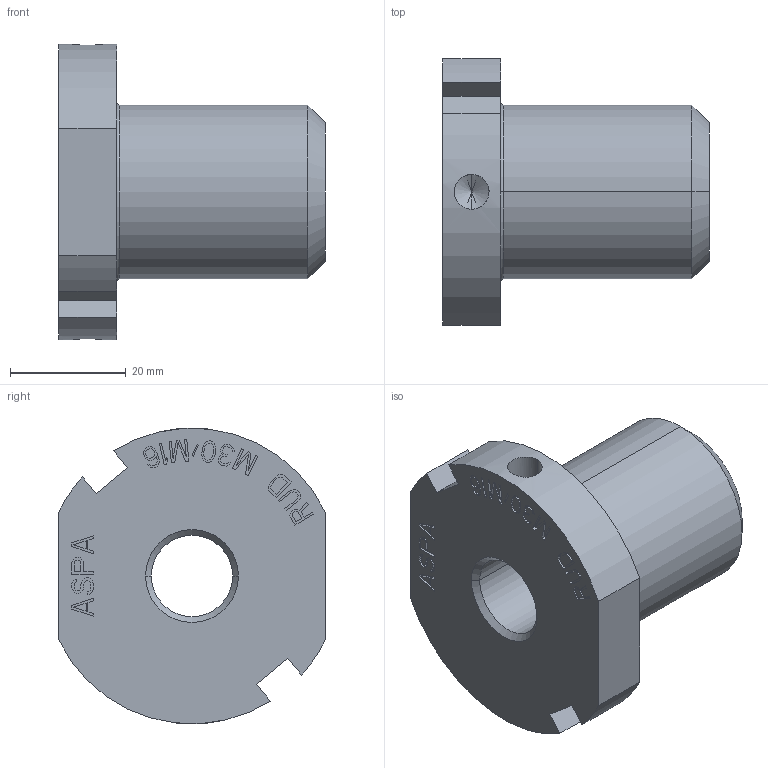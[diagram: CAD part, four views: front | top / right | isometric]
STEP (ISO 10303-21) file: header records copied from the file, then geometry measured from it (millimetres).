
FILE_DESCRIPTION((''),'2;1');
FILE_NAME('001-M32236-P-4','2019-07-16T',('anja.joas'),(''),'PRO/ENGINEER BY PARAMETRIC TECHNOLOGY CORPORATION, 2011490','PRO/ENGINEER BY PARAMETRIC TECHNOLOGY CORPORATION, 2011490','');
FILE_SCHEMA(('CONFIG_CONTROL_DESIGN'));
Length unit declared in the file: millimetre
Products named in the file (1): 001-M32236-P-4
Bounding box: 46 x 46 x 51 mm (x, y, z)
Volume: 36414.9 mm3; surface area: 10927.3 mm2
Topology: 1 solids, 1 shells, 432 faces, 1216 edges, 806 vertices
Faces by surface type: plane 408, cylinder 12, cone 10, torus 2
Entity records: 13724 total; most frequent: CARTESIAN_POINT 2498, ORIENTED_EDGE 2424, DIRECTION 2106, EDGE_CURVE 1212, VECTOR 1174, LINE 1174, VERTEX_POINT 806, AXIS2_PLACEMENT_3D 466
